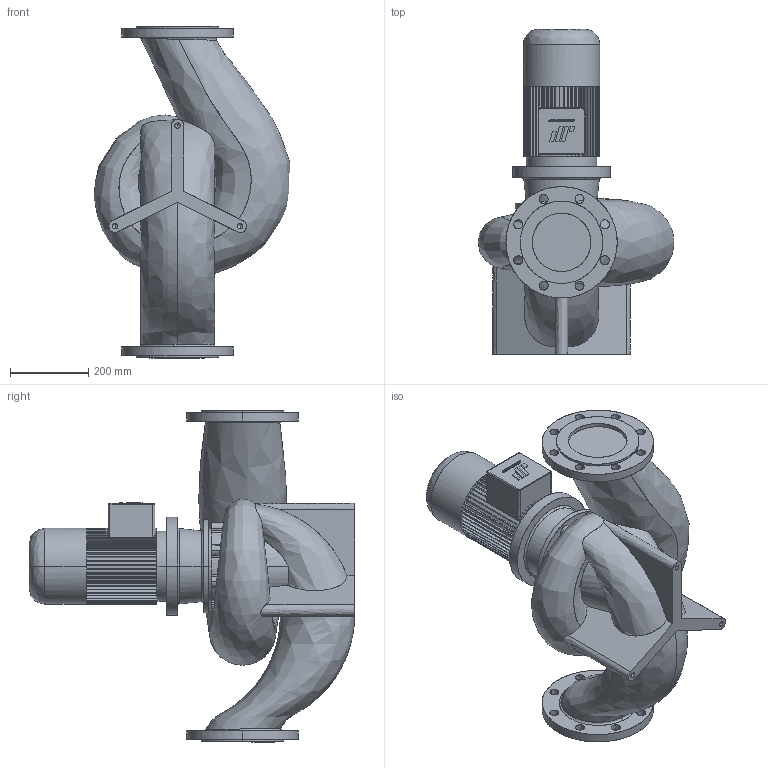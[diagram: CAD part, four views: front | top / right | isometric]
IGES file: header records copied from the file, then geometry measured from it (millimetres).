
Start section: CombiLine
Global section: file name: CLB_150-125_IEC100L_ND10.igs; native system:  By UGS Corp.; preprocessor: XPlus GENERIC/IGES 3.0; author: Stageplaats; organization: Johnson Pump Water B.V.; date: 20070718.093150; units: millimetre
Bounding box: 501.27 x 833 x 850 mm (x, y, z)
Surface area: 1913675.1 mm2 (no closed solid volume)
Topology: 0 solids, 0 shells, 676 faces, 3883 edges, 3877 vertices
Faces by surface type: bspline 676
